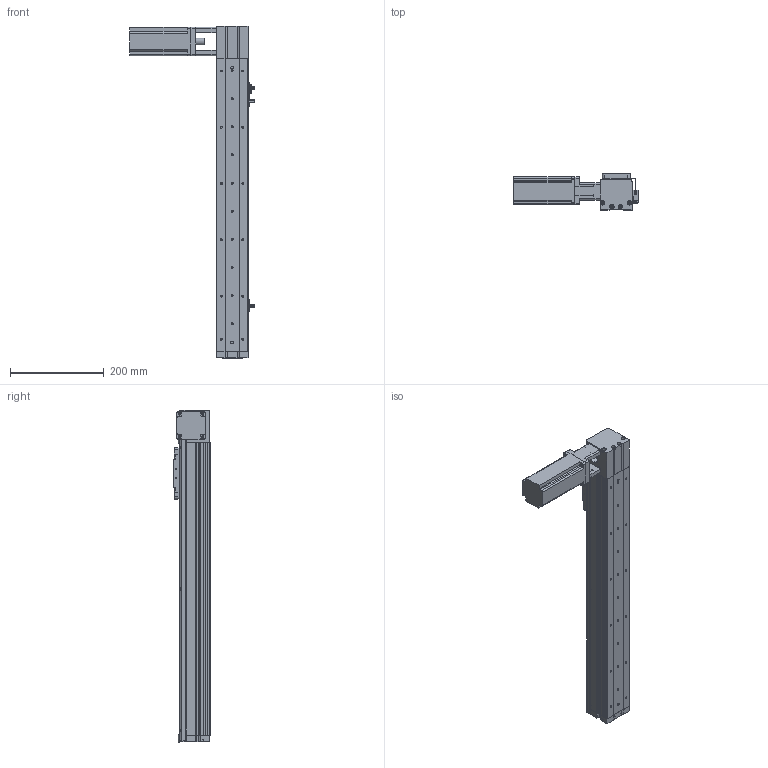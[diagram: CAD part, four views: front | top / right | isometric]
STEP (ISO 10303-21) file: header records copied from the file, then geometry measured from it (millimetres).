
FILE_DESCRIPTION (( 'STEP AP214' ), '1' );
FILE_NAME ('KSD68BS-S450-MLT-CR.STEP', '2019-11-08T05:16:10', ( '微软用户' ), ( '微软中国' ), 'SwSTEP 2.0', 'SolidWorks 2014', '' );
FILE_SCHEMA (( 'AUTOMOTIVE_DESIGN' ));
Length unit declared in the file: millimetre
Products named in the file (13): 100遵鎮湛假蚾啣1; KSD68BS 450行程盖板全封闭; 68遵裔啣揤啣1; 68宽单导轨全封闭丝杆传动安装板1防护罩; KSD68BS 450行程侧板全封闭; 68宽单导轨全封闭同步带端板; 68单导轨全封闭同步带电机座右; 68单导轨全封闭同步带安装板; 感应片68宽全封闭; U倰嫖萇EEㄜSX672; 台达ECMA－C20604AS伺服电机（400W); KSD68BS 450行程底板全封闭; KSD68BS-S450-MLT-CR
Assembly tree (16 placements, depth 2):
  KSD68BS-S450-MLT-CR
    KSD68BS 450行程底板全封闭
    台达ECMA－C20604AS伺服电机（400W)
    U倰嫖萇EEㄜSX672  x3
    感应片68宽全封闭
    68单导轨全封闭同步带安装板
    68单导轨全封闭同步带电机座右
    68宽单导轨全封闭同步带端板
    KSD68BS 450行程侧板全封闭  x2
    68宽单导轨全封闭丝杆传动安装板1防护罩
    68遵裔啣揤啣1  x2
    KSD68BS 450行程盖板全封闭
    100遵鎮湛假蚾啣1
Bounding box: 266.4 x 77 x 708.1 mm (x, y, z)
Volume: 1745425.9 mm3; surface area: 583744.1 mm2
Topology: 17 solids, 17 shells, 1330 faces, 3754 edges, 2409 vertices
Faces by surface type: cylinder 598, plane 596, cone 136
Entity records: 41325 total; most frequent: CARTESIAN_POINT 6897, DIRECTION 6194, ORIENTED_EDGE 5936, EDGE_CURVE 2968, AXIS2_PLACEMENT_3D 2208, VERTEX_POINT 1947, VECTOR 1778, LINE 1778
